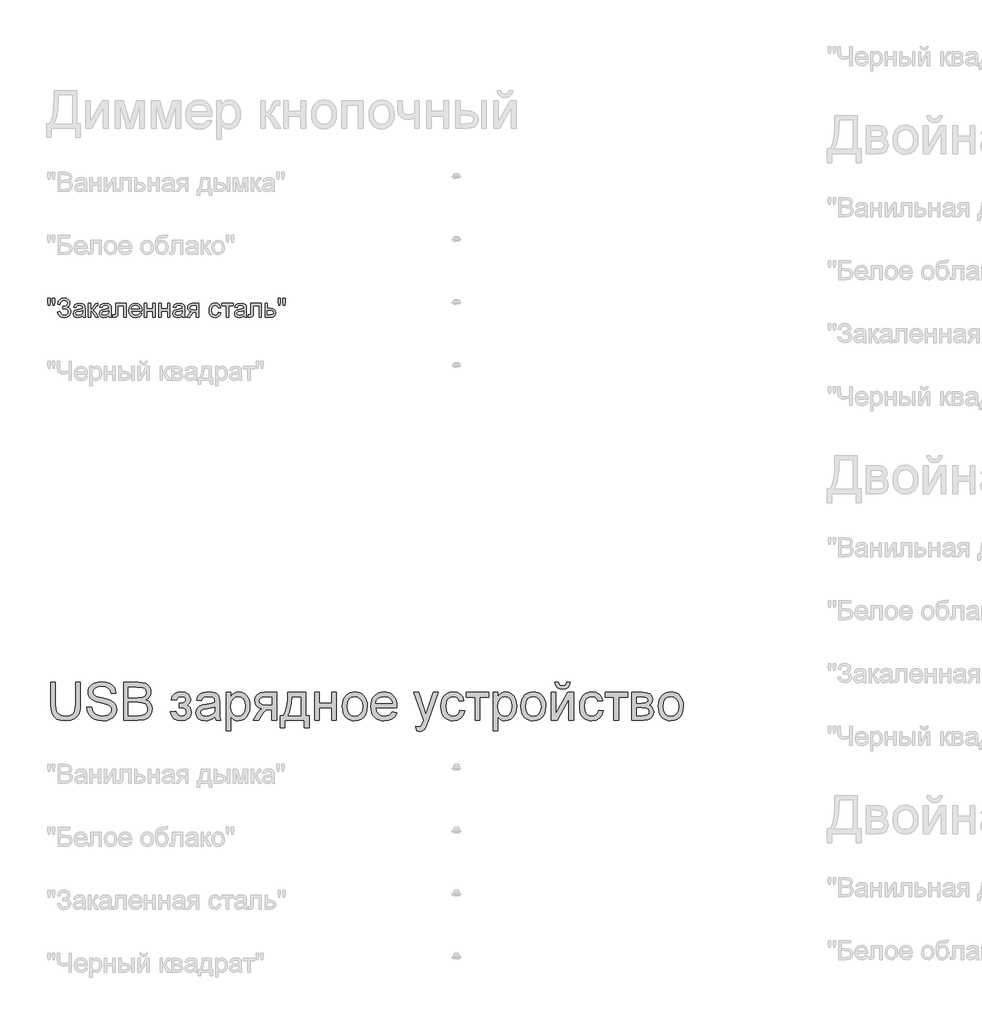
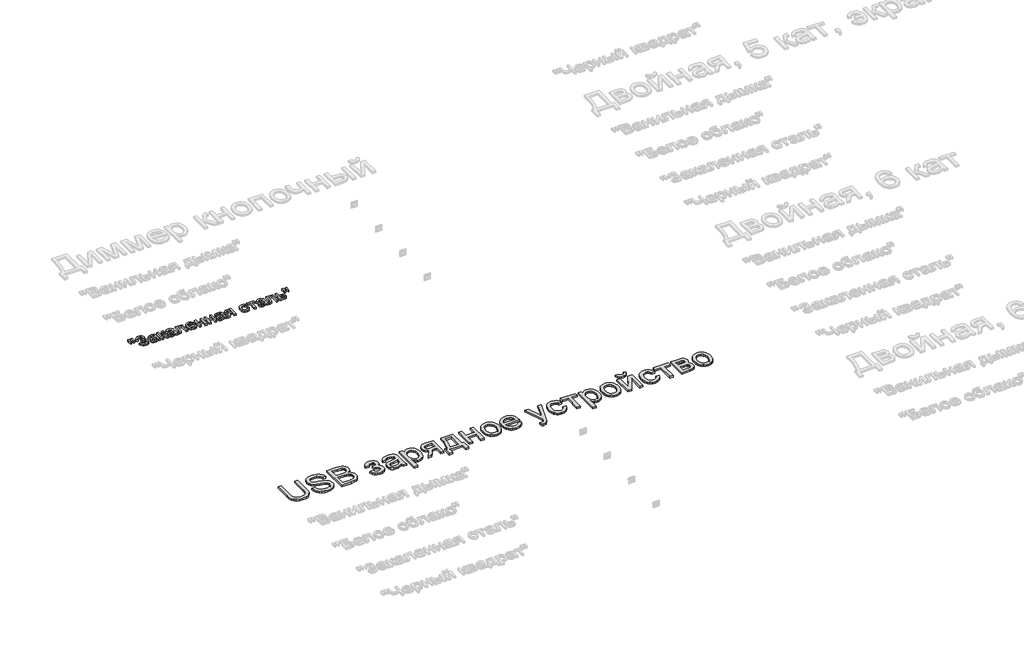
# One storey, part 154 of 168: 2 proxies.
"""IFC4 building model written with IfcOpenShell, lengths in millimetres."""

from ifc_helpers import new_model, si_unit, origin, origin_with_axes, place, context, project, spatial, polyline, outline, extrude, element, save

model = new_model("IFC4")

# Units and contexts
model_context = context("Model", 3, world=origin())
ifc_project = project(units=[si_unit("LENGTHUNIT", "METRE", prefix="MILLI")], contexts=[model_context])

# Site, building, storey
site = spatial("IfcSite", under=ifc_project)
building = spatial("IfcBuilding", under=site)
storey = spatial("IfcBuildingStorey", under=building, Name="Этаж 01", Elevation=0.0)

# Proxies
placement = place(None, origin())
element("IfcBuildingElementProxy", 1, Name="300 мм Arial 2", ObjectType="300 мм Arial 2", at=placement, inside=storey, context=model_context, shape_type="SweptSolid", body=[
    extrude(outline(polyline([(71296.8678623, -15647.0367511), (71334.5389786, -15647.0367511), (71334.5389786, -15820.897782), (71331.9821987, -15861.6131219), (71324.3118591, -15892.9658649), (71309.9828554, -15917.1541061), (71287.4500832, -15936.3759403), (71256.6583602, -15948.9299134), (71217.5525041, -15953.1145711), (71179.3019737, -15949.4725394), (71148.7217828, -15938.5464441), (71125.8027345, -15920.7133644), (71110.5356317, -15896.3503793), (71101.9547842, -15863.673261), (71099.0945017, -15820.897782), (71099.0945017, -15647.0367511), (71136.765618, -15647.0367511), (71136.765618, -15819.5734069), (71138.623422, -15853.4277475), (71144.1968343, -15876.9997863), (71154.295195, -15893.3245498), (71169.7278447, -15905.4370645), (71189.8509899, -15912.9418572), (71214.020837, -15915.4434548), (71252.3357467, -15910.495442), (71266.678546, -15904.3104259), (71277.8115749, -15895.6514035), (71286.1487006, -15883.4745094), (71292.1037904, -15866.7358786), (71296.8678623, -15819.5734069), (71296.8678623, -15647.0367511)])), origin_with_axes(), (0.0, 0.0, 1.0), 20.0),
    extrude(outline(polyline([(71386.3367635, -15844.8101117), (71424.0078798, -15844.8101117), (71428.3304932, -15865.7150061), (71436.1479856, -15882.5180162), (71448.3432738, -15895.8537386), (71465.7992745, -15906.3567695), (71487.1364302, -15913.1717835), (71510.9751835, -15915.4434548), (71531.9628513, -15913.7236065), (71550.3385569, -15908.5640615), (71565.2285807, -15900.3970812), (71575.7592028, -15889.6549269), (71582.0223938, -15877.3216831), (71584.1101241, -15864.3814339), (71582.5466256, -15851.7722785), (71577.8561302, -15840.8737744), (71568.3279865, -15831.575557), (71552.2515433, -15823.7672616), (71497.4003378, -15809.3830756), (71461.3938876, -15799.864129), (71438.3552776, -15790.8050348), (71419.6024929, -15778.1315001), (71406.3127558, -15762.7724268), (71398.3940959, -15745.0589087), (71395.7545426, -15725.3220397), (71399.0194953, -15703.258317), (71408.8143534, -15682.6845165), (71424.8815995, -15665.2469099), (71446.9637163, -15652.5917692), (71473.469614, -15644.8938385), (71502.8082032, -15642.3278616), (71534.5932075, -15645.0134001), (71562.4050864, -15653.0700158), (71585.2505583, -15666.3321618), (71602.1363419, -15684.634291), (71612.8233138, -15706.8359694), (71617.0723509, -15731.7967628), (71579.4012346, -15731.7967628), (71572.4850531, -15709.3191729), (71558.0640788, -15693.0955769), (71535.5313066, -15683.2731276), (71504.2797311, -15679.9989779), (71472.2923917, -15683.2363394), (71450.3482307, -15692.9484241), (71437.6563018, -15707.2406396), (71433.4256589, -15724.2183937), (71436.4238971, -15738.6945502), (71445.4186119, -15750.3380154), (71466.6821912, -15760.7490758), (71506.9284815, -15771.3808655), (71548.4623588, -15781.4792263), (71573.588699, -15790.29), (71595.0638105, -15803.9568162), (71610.0458048, -15820.8242056), (71618.8473815, -15840.7082275), (71621.7812404, -15863.4249407), (71618.4059231, -15886.6474916), (71608.2799712, -15908.4904851), (71591.8172519, -15927.289255), (71569.4316325, -15941.3791355), (71542.5118675, -15950.1807122), (71512.4467114, -15953.1145711), (71475.5389503, -15949.9507859), (71445.1610945, -15940.4594305), (71420.9636563, -15924.6037165), (71402.5971477, -15902.3468558), (71390.8065297, -15875.2339527), (71386.3367635, -15844.8101117)])), origin_with_axes(), (0.0, 0.0, 1.0), 20.0),
    extrude(outline(polyline([(71678.2879149, -15948.4056816), (71678.2879149, -15647.0367511), (71793.2878266, -15647.0367511), (71824.9164811, -15649.2532401), (71849.61056, -15655.9027072), (71868.5380887, -15667.1506992), (71882.8670924, -15683.162763), (71891.8893983, -15701.9983212), (71894.8968336, -15721.7167961), (71892.3676449, -15739.8625756), (71884.7800788, -15756.9231031), (71872.0789529, -15771.849915), (71854.209085, -15783.5945477), (71875.5554377, -15794.7413722), (71891.3283783, -15811.7007322), (71901.0680541, -15833.3505876), (71904.3146127, -15858.5688983), (71902.0981237, -15879.5841573), (71895.4486566, -15899.072706), (71885.5250398, -15915.6457899), (71873.4861015, -15927.9146544), (71858.7432305, -15936.7990046), (71840.7078157, -15943.2185454), (71792.4049098, -15948.4056816), (71678.2879149, -15948.4056816)]), holes=[polyline([(71715.9590312, -15769.4678791), (71784.7529643, -15769.4678791), (71824.9256781, -15766.2305176), (71838.9879674, -15760.6479083), (71849.0955252, -15752.2877899), (71855.1931693, -15741.2789212), (71857.2257173, -15727.7500609), (71855.331125, -15714.6166736), (71849.6473482, -15703.1755436), (71840.4319042, -15694.2452082), (71827.9423105, -15688.6442048), (71779.5290399, -15684.7078674), (71715.9590312, -15684.7078674), (71715.9590312, -15769.4678791)]), polyline([(71715.9590312, -15910.7345653), (71793.2142502, -15910.7345653), (71821.1732818, -15909.2630373), (71844.8280941, -15901.0592688), (71860.4998671, -15884.320638), (71865.1075891, -15872.4932319), (71866.6434964, -15858.9367803), (71864.8408746, -15843.1914309), (71859.4330093, -15829.6533735), (71849.9876391, -15819.0675691), (71836.0725026, -15812.1789788), (71816.3632247, -15808.3989913), (71789.5354302, -15807.1389954), (71715.9590312, -15807.1389954), (71715.9590312, -15910.7345653)])]), origin_with_axes(), (0.0, 0.0, 1.0), 20.0),
    extrude(outline(polyline([(72120.9235315, -15849.5190013), (72120.9235315, -15811.847885), (72150.6483967, -15810.376357), (72165.6579821, -15802.5404705), (72170.9554828, -15795.1920276), (72172.7213164, -15786.1697217), (72170.3576746, -15775.4551586), (72163.2667491, -15767.1502225), (72152.4418214, -15761.8251307), (72138.8761728, -15760.0501), (72125.1633715, -15761.8159336), (72113.6762562, -15767.1134343), (72104.4148269, -15775.9426022), (72097.3790838, -15788.3034373), (72054.9990779, -15783.5945477), (72066.2378729, -15756.8127385), (72083.3259916, -15737.6828747), (72106.263434, -15726.2049565), (72135.0502001, -15722.3789837), (72166.5408989, -15727.041888), (72190.3796522, -15741.0306009), (72205.3892376, -15761.4940369), (72210.3924327, -15785.5811105), (72208.6128035, -15797.9419455), (72203.2739161, -15808.9784054), (72194.3757703, -15818.6904901), (72181.9183663, -15827.0781996), (72196.4589021, -15837.5444423), (72206.8239773, -15850.5490709), (72213.031986, -15866.1288733), (72215.1013222, -15884.320638), (72209.8498067, -15912.0497434), (72194.0952603, -15934.0214956), (72168.9045407, -15948.3413022), (72135.3445057, -15953.1145711), (72102.5202347, -15948.6999872), (72077.4030914, -15935.4562353), (72059.993076, -15913.3833156), (72050.2901884, -15882.481228), (72092.6701942, -15877.7723385), (72099.0161586, -15893.7016289), (72109.6663424, -15905.5842173), (72123.3883408, -15912.9786454), (72138.9497492, -15915.4434548), (72154.1064874, -15913.079813), (72166.4673225, -15905.9888875), (72174.6894851, -15895.2191421), (72177.4302059, -15881.8190404), (72175.7287517, -15871.2056449), (72170.624389, -15862.0269891), (72156.1298384, -15851.4319876), (72128.2811714, -15849.2982721), (72120.9235315, -15849.5190013)])), origin_with_axes(), (0.0, 0.0, 1.0), 20.0),
    extrude(outline(polyline([(72403.4569038, -15920.1523443), (72385.4582771, -15935.584994), (72366.9262216, -15945.6833548), (72347.4376729, -15951.256767), (72326.5695668, -15953.1145711), (72295.088065, -15948.6448049), (72271.8655141, -15935.2355061), (72257.5457074, -15914.8732377), (72252.7724385, -15889.5445623), (72254.5750603, -15873.9279716), (72259.9829256, -15859.7461207), (72268.3246499, -15847.6060149), (72278.9288484, -15838.1146594), (72305.3059874, -15825.7538244), (72337.9003322, -15820.0884417), (72376.4175771, -15814.1287533), (72403.2361746, -15807.1389954), (72403.4569038, -15798.7512859), (72400.8633357, -15781.9390788), (72393.0826315, -15770.9394071), (72375.6818131, -15762.7724268), (72351.4383896, -15760.0501), (72328.9975879, -15761.8619189), (72313.3258149, -15767.2973753), (72302.638843, -15777.3497509), (72295.1524444, -15793.0123268), (72257.4813281, -15788.3034373), (72264.0204305, -15767.7020455), (72273.7785005, -15751.5152378), (72287.6660458, -15739.1360086), (72306.5935744, -15729.9573528), (72329.742549, -15724.273576), (72356.294432, -15722.3789837), (72381.7610631, -15724.0528468), (72401.9485876, -15729.074436), (72417.1697051, -15736.625214), (72427.7371154, -15745.8866432), (72434.7452674, -15757.3369703), (72439.2886101, -15771.4544419), (72441.1280201, -15804.4166687), (72441.1280201, -15851.2848348), (72443.0410064, -15916.7310418), (72450.5457991, -15948.4056816), (72412.8746828, -15948.4056816), (72403.4569038, -15920.1523443)]), holes=[polyline([(72403.4569038, -15844.8101117), (72342.6827982, -15856.3616064), (72310.2723944, -15862.4684475), (72295.5939028, -15872.4012614), (72290.4435548, -15886.895812), (72293.2486551, -15898.0978187), (72301.6639557, -15907.2764745), (72315.5055158, -15913.4017097), (72334.5893943, -15915.4434548), (72354.822904, -15913.1901776), (72372.701969, -15906.4303459), (72387.1965196, -15896.4699409), (72397.2764862, -15884.6149436), (72401.7462525, -15872.4012614), (72403.2361746, -15855.4786896), (72403.4569038, -15844.8101117)])]), origin_with_axes(), (0.0, 0.0, 1.0), 20.0),
    extrude(outline(polyline([(72492.925805, -16033.1656933), (72492.925805, -15727.0878733), (72530.5969213, -15727.0878733), (72530.5969213, -15764.0232256), (72542.8841799, -15745.8038698), (72556.6429665, -15732.7900442), (72572.6826215, -15724.9817488), (72591.8124853, -15722.3789837), (72617.2883135, -15726.0210155), (72639.5635683, -15736.9471107), (72657.7001506, -15754.4950819), (72670.7599615, -15778.0027414), (72678.6510302, -15805.7594379), (72681.2813865, -15836.0545202), (72678.3107394, -15868.271786), (72669.3987981, -15897.0861432), (72654.8306711, -15921.0352611), (72634.8914669, -15938.6568087), (72611.668916, -15949.5001305), (72587.2507485, -15953.1145711), (72569.9327036, -15950.695747), (72554.4724628, -15943.4392746), (72541.237908, -15932.4855882), (72530.5969213, -15918.975122), (72530.5969213, -16033.1656933), (72492.925805, -16033.1656933)]), holes=[polyline([(72530.5969213, -15839.512611), (72534.6712144, -15873.2841782), (72546.8940937, -15896.9022022), (72564.9295085, -15910.8081417), (72586.4414082, -15915.4434548), (72608.3027957, -15910.6425948), (72626.798063, -15896.2400147), (72639.4072184, -15871.7574679), (72643.6102702, -15836.7167078), (72639.508386, -15803.1290817), (72627.2027332, -15779.1799638), (72609.1949096, -15764.832566), (72587.9865125, -15760.0501), (72566.6953421, -15765.1360686), (72547.9977397, -15780.3939744), (72534.9471259, -15805.3455707), (72530.5969213, -15839.512611)])]), origin_with_axes(), (0.0, 0.0, 1.0), 20.0),
    extrude(outline(polyline([(72893.1814157, -15727.0878733), (72893.1814157, -15948.4056816), (72855.5102994, -15948.4056816), (72855.5102994, -15863.6456699), (72834.9824841, -15863.6456699), (72807.0234525, -15868.4281358), (72795.8582339, -15878.8575904), (72780.756678, -15900.5810222), (72750.7375072, -15948.4056816), (72707.180279, -15948.4056816), (72744.9985481, -15887.9258816), (72761.7003907, -15866.2208438), (72777.0778581, -15856.5823356), (72751.3261184, -15848.6912668), (72733.2263242, -15833.7000755), (72722.5209582, -15813.7608713), (72718.9525028, -15791.025764), (72723.8269393, -15765.2372362), (72738.4502486, -15744.8197854), (72762.307396, -15731.5208513), (72794.8833466, -15727.0878733), (72893.1814157, -15727.0878733)]), holes=[polyline([(72855.5102994, -15764.7589896), (72805.8462301, -15764.7589896), (72780.195658, -15766.9386904), (72765.636728, -15773.4777929), (72758.8768963, -15782.9415572), (72756.6236191, -15793.8952436), (72759.9437541, -15808.2518385), (72769.9041592, -15818.2122435), (72788.307456, -15824.033976), (72816.9562663, -15825.9745536), (72855.5102994, -15825.9745536), (72855.5102994, -15764.7589896)])]), origin_with_axes(), (0.0, 0.0, 1.0), 20.0),
    extrude(outline(polyline([(72982.650317, -15727.0878733), (73123.9170031, -15727.0878733), (73123.9170031, -15910.7345653), (73152.1703403, -15910.7345653), (73152.1703403, -16009.6212456), (73114.499224, -16009.6212456), (73114.499224, -15948.4056816), (72959.1058693, -15948.4056816), (72959.1058693, -16009.6212456), (72921.434753, -16009.6212456), (72921.434753, -15910.7345653), (72944.9792007, -15910.7345653), (72962.0949105, -15879.8048865), (72974.0786665, -15838.8872116), (72980.9304686, -15787.9815405), (72982.650317, -15727.0878733)]), holes=[polyline([(73015.6125437, -15764.7589896), (73012.522335, -15810.8821947), (73006.7833758, -15850.5858591), (72998.3956664, -15883.8699826), (72987.3592065, -15910.7345653), (73086.2458868, -15910.7345653), (73086.2458868, -15764.7589896), (73015.6125437, -15764.7589896)])]), origin_with_axes(), (0.0, 0.0, 1.0), 20.0),
    extrude(outline(polyline([(73194.5503462, -15727.0878733), (73232.2214625, -15727.0878733), (73232.2214625, -15811.847885), (73331.1081428, -15811.847885), (73331.1081428, -15727.0878733), (73368.7792591, -15727.0878733), (73368.7792591, -15948.4056816), (73331.1081428, -15948.4056816), (73331.1081428, -15849.5190013), (73232.2214625, -15849.5190013), (73232.2214625, -15948.4056816), (73194.5503462, -15948.4056816), (73194.5503462, -15727.0878733)])), origin_with_axes(), (0.0, 0.0, 1.0), 20.0),
    extrude(outline(polyline([(73415.8681545, -15837.7467774), (73417.905301, -15809.0841715), (73424.0167407, -15784.385494), (73434.2024734, -15763.6507451), (73448.4624993, -15746.8799246), (73462.8190941, -15736.160763), (73478.6656111, -15728.504219), (73496.0020501, -15723.9102925), (73514.8284112, -15722.3789837), (73535.6114447, -15724.2436856), (73554.4033168, -15729.8377912), (73571.2040277, -15739.1613005), (73586.0135773, -15752.2142135), (73598.1008001, -15768.5550719), (73606.7345306, -15787.7424172), (73611.914769, -15809.7762495), (73613.6415151, -15834.6565687), (73610.5880945, -15872.7139611), (73601.4278329, -15901.6846682), (73586.4274445, -15923.3805088), (73565.8536439, -15939.6133019), (73541.4170824, -15949.7392538), (73514.8284112, -15953.1145711), (73493.7418751, -15951.256767), (73474.775259, -15945.6833548), (73457.9285628, -15936.3943344), (73443.2017867, -15923.3897059), (73431.2433226, -15906.8901984), (73422.7015625, -15887.1165412), (73417.5765065, -15864.0687342), (73415.8681545, -15837.7467774)]), holes=[polyline([(73453.5392708, -15837.673201), (73457.8986724, -15871.7666649), (73470.9768774, -15896.0560737), (73490.6585641, -15910.5966095), (73514.8284112, -15915.4434548), (73538.8878937, -15910.5690184), (73558.5327922, -15895.9457091), (73571.6109971, -15871.3344036), (73575.9703988, -15836.4959786), (73571.583406, -15803.3957961), (73558.4224276, -15779.4374812), (73538.7499379, -15764.8969453), (73514.8284112, -15760.0501), (73490.6585641, -15764.8785512), (73470.9768774, -15779.3639048), (73457.8986724, -15803.5981312), (73453.5392708, -15837.673201)])]), origin_with_axes(), (0.0, 0.0, 1.0), 20.0),
    extrude(outline(polyline([(73810.9734173, -15882.481228), (73847.9087696, -15887.1901176), (73834.6006384, -15915.0203905), (73813.3646503, -15935.8241173), (73784.6790517, -15948.7919577), (73749.0220893, -15953.1145711), (73725.647787, -15951.2498692), (73704.8210676, -15945.6557637), (73686.541931, -15936.3322543), (73670.8103771, -15923.2793413), (73658.159835, -15906.860308), (73649.1237335, -15887.4384379), (73643.7020726, -15865.013731), (73641.8948523, -15839.5861874), (73643.7204667, -15813.2964203), (73649.1973099, -15790.1244531), (73658.3253819, -15770.0702859), (73671.1046827, -15753.1339185), (73686.7948498, -15739.6786346), (73704.6555207, -15730.0677174), (73724.6866953, -15724.3011672), (73746.8883737, -15722.3789837), (73768.3749815, -15724.2965686), (73787.8060487, -15730.0493233), (73805.1815751, -15739.6372478), (73820.501561, -15753.0603421), (73833.0072496, -15769.9599213), (73841.9398842, -15789.9773003), (73847.2994651, -15813.1124793), (73849.085992, -15839.3654582), (73848.8652628, -15849.5190013), (73679.5659686, -15849.5190013), (73686.086677, -15877.7171562), (73701.2342181, -15898.4473066), (73723.0956057, -15911.1944178), (73749.7578533, -15915.4434548), (73769.807422, -15913.4752861), (73786.6932056, -15907.5707801), (73800.415204, -15897.3620547), (73810.9734173, -15882.481228)]), holes=[polyline([(73679.5659686, -15811.847885), (73811.4148757, -15811.847885), (73806.3197101, -15791.945469), (73796.3317139, -15777.7084358), (73774.3691588, -15764.464684), (73746.7412209, -15760.0501), (73721.3481662, -15763.5725701), (73700.3513014, -15774.1399805), (73685.7555832, -15790.6118968), (73679.5659686, -15811.847885)])]), origin_with_axes(), (0.0, 0.0, 1.0), 20.0),
    extrude(outline(polyline([(74004.4793468, -16033.1656933), (73999.7704572, -15996.8925285), (74018.900321, -16000.2034665), (74036.7793859, -15996.0463999), (74047.7422694, -15984.4581171), (74058.0429653, -15956.7198147), (74060.9860212, -15947.5963412), (73980.9348991, -15727.0878733), (74020.6661546, -15727.0878733), (74063.1197368, -15849.9604597), (74077.908593, -15899.1094942), (74092.6974492, -15855.6994188), (74136.3282538, -15727.0878733), (74175.7652037, -15727.0878733), (74098.7307139, -15953.7031823), (74078.7179334, -16002.8522169), (74068.4724198, -16018.5423839), (74056.8657429, -16029.4132969), (74043.3828678, -16035.7592613), (74027.5087597, -16037.8745828), (74004.4793468, -16033.1656933)])), origin_with_axes(), (0.0, 0.0, 1.0), 20.0),
    extrude(outline(polyline([(74348.2282831, -15868.3545594), (74385.8993994, -15873.063449), (74375.3963684, -15906.5683017), (74355.6594994, -15931.88778), (74328.5465963, -15947.8078733), (74295.9154633, -15953.1145711), (74274.7875405, -15951.2636648), (74255.843917, -15945.710946), (74239.0845929, -15936.4564145), (74224.5095681, -15923.5000705), (74212.7120523, -15907.0856357), (74204.2852554, -15887.456832), (74199.2291772, -15864.6136594), (74197.5438178, -15838.5561178), (74200.4224944, -15805.032871), (74209.0585243, -15775.9793904), (74223.5898631, -15752.5177162), (74244.1544666, -15735.7698884), (74268.7565751, -15725.7267099), (74295.4004286, -15722.3789837), (74327.2314182, -15726.9775087), (74352.6796552, -15740.7730835), (74370.9357992, -15763.0299442), (74381.1905098, -15793.0123268), (74343.5193935, -15797.7212163), (74336.6859855, -15781.2860882), (74326.0449988, -15769.5046673), (74312.1850446, -15762.4137419), (74295.6947341, -15760.0501), (74271.3501431, -15764.7038073), (74252.0271413, -15778.664929), (74239.4179859, -15802.6876233), (74235.2149341, -15837.5260482), (74239.3260154, -15872.8335227), (74251.6592593, -15896.9389904), (74270.6327732, -15910.8173387), (74294.6646646, -15915.4434548), (74314.1716074, -15912.5555811), (74330.1652771, -15903.8919602), (74341.7995452, -15889.2318626), (74348.2282831, -15868.3545594)])), origin_with_axes(), (0.0, 0.0, 1.0), 20.0),
    extrude(outline(polyline([(74400.026068, -15727.0878733), (74578.9638704, -15727.0878733), (74578.9638704, -15764.7589896), (74508.3305274, -15764.7589896), (74508.3305274, -15948.4056816), (74470.6594111, -15948.4056816), (74470.6594111, -15764.7589896), (74400.026068, -15764.7589896), (74400.026068, -15727.0878733)])), origin_with_axes(), (0.0, 0.0, 1.0), 20.0),
    extrude(outline(polyline([(74611.9260972, -16033.1656933), (74611.9260972, -15727.0878733), (74649.5972135, -15727.0878733), (74649.5972135, -15764.0232256), (74661.8844721, -15745.8038698), (74675.6432588, -15732.7900442), (74691.6829138, -15724.9817488), (74710.8127775, -15722.3789837), (74736.2886057, -15726.0210155), (74758.5638605, -15736.9471107), (74776.7004428, -15754.4950819), (74789.7602537, -15778.0027414), (74797.6513225, -15805.7594379), (74800.2816787, -15836.0545202), (74797.3110316, -15868.271786), (74788.3990903, -15897.0861432), (74773.8309633, -15921.0352611), (74753.8917591, -15938.6568087), (74730.6692082, -15949.5001305), (74706.2510408, -15953.1145711), (74688.9329958, -15950.695747), (74673.472755, -15943.4392746), (74660.2382002, -15932.4855882), (74649.5972135, -15918.975122), (74649.5972135, -16033.1656933), (74611.9260972, -16033.1656933)]), holes=[polyline([(74649.5972135, -15839.512611), (74653.6715066, -15873.2841782), (74665.8943859, -15896.9022022), (74683.9298007, -15910.8081417), (74705.4417004, -15915.4434548), (74727.3030879, -15910.6425948), (74745.7983552, -15896.2400147), (74758.4075106, -15871.7574679), (74762.6105624, -15836.7167078), (74758.5086782, -15803.1290817), (74746.2030254, -15779.1799638), (74728.1952018, -15764.832566), (74706.9868048, -15760.0501), (74685.6956343, -15765.1360686), (74666.9980319, -15780.3939744), (74653.9474181, -15805.3455707), (74649.5972135, -15839.512611)])]), origin_with_axes(), (0.0, 0.0, 1.0), 20.0),
    extrude(outline(polyline([(74833.2439055, -15837.7467774), (74835.281052, -15809.0841715), (74841.3924917, -15784.385494), (74851.5782244, -15763.6507451), (74865.8382503, -15746.8799246), (74880.1948451, -15736.160763), (74896.0413621, -15728.504219), (74913.3778011, -15723.9102925), (74932.2041622, -15722.3789837), (74952.9871957, -15724.2436856), (74971.7790678, -15729.8377912), (74988.5797787, -15739.1613005), (75003.3893283, -15752.2142135), (75015.4765511, -15768.5550719), (75024.1102816, -15787.7424172), (75029.29052, -15809.7762495), (75031.0172661, -15834.6565687), (75027.9638455, -15872.7139611), (75018.8035839, -15901.6846682), (75003.8031955, -15923.3805088), (74983.2293949, -15939.6133019), (74958.7928334, -15949.7392538), (74932.2041622, -15953.1145711), (74911.1176261, -15951.256767), (74892.15101, -15945.6833548), (74875.3043139, -15936.3943344), (74860.5775377, -15923.3897059), (74848.6190736, -15906.8901984), (74840.0773136, -15887.1165412), (74834.9522575, -15864.0687342), (74833.2439055, -15837.7467774)]), holes=[polyline([(74870.9150218, -15837.673201), (74875.2744234, -15871.7666649), (74888.3526284, -15896.0560737), (74908.0343151, -15910.5966095), (74932.2041622, -15915.4434548), (74956.2636447, -15910.5690184), (74975.9085432, -15895.9457091), (74988.9867482, -15871.3344036), (74993.3461498, -15836.4959786), (74988.959157, -15803.3957961), (74975.7981786, -15779.4374812), (74956.1256889, -15764.8969453), (74932.2041622, -15760.0501), (74908.0343151, -15764.8785512), (74888.3526284, -15779.3639048), (74875.2744234, -15803.5981312), (74870.9150218, -15837.673201)])]), origin_with_axes(), (0.0, 0.0, 1.0), 20.0),
    extrude(outline(polyline([(75073.397272, -15727.0878733), (75111.0683883, -15727.0878733), (75111.0683883, -15895.8721327), (75203.6274982, -15727.0878733), (75252.3350744, -15727.0878733), (75252.3350744, -15948.4056816), (75214.6639581, -15948.4056816), (75214.6639581, -15780.6514918), (75122.6934593, -15948.4056816), (75073.397272, -15948.4056816), (75073.397272, -15727.0878733)])), origin_with_axes(), (0.0, 0.0, 1.0), 20.0),
    extrude(outline(polyline([(75195.8283999, -15647.0367511), (75224.0817372, -15647.0367511), (75218.0024872, -15671.160613), (75205.798002, -15688.9385104), (75188.0201046, -15699.8921968), (75165.2206179, -15703.5434256), (75140.4805538, -15699.9197879), (75121.2955077, -15689.048875), (75108.1805146, -15671.2985687), (75101.6506092, -15647.0367511), (75129.9039464, -15647.0367511), (75133.877072, -15659.4435714), (75140.4989479, -15668.2635422), (75149.8063623, -15673.5334518), (75161.8361036, -15675.2900883), (75175.4109492, -15673.5886341), (75185.2333985, -15668.4842714), (75191.8552744, -15659.7194829), (75195.8283999, -15647.0367511)])), origin_with_axes(), (0.0, 0.0, 1.0), 20.0),
    extrude(outline(polyline([(75450.108435, -15868.3545594), (75487.7795513, -15873.063449), (75477.2765204, -15906.5683017), (75457.5396513, -15931.88778), (75430.4267483, -15947.8078733), (75397.7956153, -15953.1145711), (75376.6676925, -15951.2636648), (75357.724069, -15945.710946), (75340.9647448, -15936.4564145), (75326.38972, -15923.5000705), (75314.5922043, -15907.0856357), (75306.1654073, -15887.456832), (75301.1093292, -15864.6136594), (75299.4239698, -15838.5561178), (75302.3026464, -15805.032871), (75310.9386762, -15775.9793904), (75325.470015, -15752.5177162), (75346.0346186, -15735.7698884), (75370.636727, -15725.7267099), (75397.2805805, -15722.3789837), (75429.1115701, -15726.9775087), (75454.5598072, -15740.7730835), (75472.8159512, -15763.0299442), (75483.0706618, -15793.0123268), (75445.3995455, -15797.7212163), (75438.5661374, -15781.2860882), (75427.9251507, -15769.5046673), (75414.0651965, -15762.4137419), (75397.5748861, -15760.0501), (75373.2302951, -15764.7038073), (75353.9072933, -15778.664929), (75341.2981379, -15802.6876233), (75337.0950861, -15837.5260482), (75341.2061674, -15872.8335227), (75353.5394113, -15896.9389904), (75372.5129252, -15910.8173387), (75396.5448165, -15915.4434548), (75416.0517593, -15912.5555811), (75432.045429, -15903.8919602), (75443.6796971, -15889.2318626), (75450.108435, -15868.3545594)])), origin_with_axes(), (0.0, 0.0, 1.0), 20.0),
    extrude(outline(polyline([(75501.9062199, -15727.0878733), (75680.8440224, -15727.0878733), (75680.8440224, -15764.7589896), (75610.2106793, -15764.7589896), (75610.2106793, -15948.4056816), (75572.539563, -15948.4056816), (75572.539563, -15764.7589896), (75501.9062199, -15764.7589896), (75501.9062199, -15727.0878733)])), origin_with_axes(), (0.0, 0.0, 1.0), 20.0),
    extrude(outline(polyline([(75713.8062492, -15727.0878733), (75796.8004273, -15727.0878733), (75823.481069, -15728.3478691), (75842.3074301, -15732.1278566), (75856.1581872, -15739.2647673), (75867.9120169, -15750.5955328), (75875.9410415, -15765.3567978), (75878.617383, -15782.7852073), (75876.9987022, -15796.8291025), (75872.1426599, -15808.9416172), (75864.0308619, -15819.1779337), (75852.6449141, -15827.5932344), (75866.5876418, -15835.4199238), (75877.9551954, -15848.0106851), (75885.5151704, -15864.3722368), (75888.0351621, -15883.5112976), (75881.6524095, -15912.2244873), (75866.4772772, -15932.439603), (75842.4545829, -15944.4141619), (75809.5291443, -15948.4056816), (75713.8062492, -15948.4056816), (75713.8062492, -15727.0878733)]), holes=[polyline([(75751.4773655, -15811.847885), (75788.7070234, -15811.847885), (75819.42517, -15809.9348986), (75834.361179, -15802.2829531), (75839.2999948, -15795.9553828), (75840.9462667, -15788.4505901), (75838.058393, -15777.2117951), (75829.394772, -15769.9829139), (75813.7413931, -15766.0649707), (75789.8842458, -15764.7589896), (75751.4773655, -15764.7589896), (75751.4773655, -15811.847885)]), polyline([(75751.4773655, -15910.7345653), (75797.6833441, -15910.7345653), (75822.8648666, -15909.033111), (75838.6653983, -15903.9287484), (75847.1450783, -15894.648925), (75850.3640458, -15880.4210889), (75848.754562, -15870.9941127), (75843.9261108, -15862.2845065), (75836.5132886, -15855.4694925), (75827.1506919, -15851.7262932), (75794.0045241, -15849.5190013), (75751.4773655, -15849.5190013), (75751.4773655, -15910.7345653)])]), origin_with_axes(), (0.0, 0.0, 1.0), 20.0),
    extrude(outline(polyline([(75925.7062784, -15837.7467774), (75927.7434249, -15809.0841715), (75933.8548646, -15784.385494), (75944.0405973, -15763.6507451), (75958.3006232, -15746.8799246), (75972.657218, -15736.160763), (75988.503735, -15728.504219), (76005.840174, -15723.9102925), (76024.6665351, -15722.3789837), (76045.4495685, -15724.2436856), (76064.2414407, -15729.8377912), (76081.0421516, -15739.1613005), (76095.8517011, -15752.2142135), (76107.938924, -15768.5550719), (76116.5726545, -15787.7424172), (76121.7528929, -15809.7762495), (76123.479639, -15834.6565687), (76120.4262184, -15872.7139611), (76111.2659567, -15901.6846682), (76096.2655684, -15923.3805088), (76075.6917678, -15939.6133019), (76051.2552063, -15949.7392538), (76024.6665351, -15953.1145711), (76003.579999, -15951.256767), (75984.6133829, -15945.6833548), (75967.7666867, -15936.3943344), (75953.0399106, -15923.3897059), (75941.0814465, -15906.8901984), (75932.5396864, -15887.1165412), (75927.4146304, -15864.0687342), (75925.7062784, -15837.7467774)]), holes=[polyline([(75963.3773947, -15837.673201), (75967.7367963, -15871.7666649), (75980.8150013, -15896.0560737), (76000.496688, -15910.5966095), (76024.6665351, -15915.4434548), (76048.7260176, -15910.5690184), (76068.3709161, -15895.9457091), (76081.449121, -15871.3344036), (76085.8085227, -15836.4959786), (76081.4215299, -15803.3957961), (76068.2605515, -15779.4374812), (76048.5880618, -15764.8969453), (76024.6665351, -15760.0501), (76000.496688, -15764.8785512), (75980.8150013, -15779.3639048), (75967.7367963, -15803.5981312), (75963.3773947, -15837.673201)])]), origin_with_axes(), (0.0, 0.0, 1.0), 20.0),
])
element("IfcBuildingElementProxy", 2, Name="150", ObjectType="150", at=placement, inside=storey, context=model_context, shape_type="SweptSolid", body=[
    extrude(outline(polyline([(71080.1485789, -12651.873446), (71075.550054, -12622.7739802), (71075.550054, -12597.7212163), (71094.3856121, -12597.7212163), (71094.3856121, -12622.7739802), (71090.2653338, -12651.873446), (71080.1485789, -12651.873446)])), origin_with_axes(), (0.0, 0.0, 1.0), 20.0),
    extrude(outline(polyline([(71117.7093306, -12651.873446), (71113.2211703, -12622.7739802), (71113.2211703, -12597.7212163), (71132.0567284, -12597.7212163), (71132.0567284, -12622.7739802), (71127.6421445, -12651.873446), (71117.7093306, -12651.873446)])), origin_with_axes(), (0.0, 0.0, 1.0), 20.0),
    extrude(outline(polyline([(71150.8922866, -12706.0256757), (71169.7278447, -12701.3167862), (71181.2977335, -12721.7158428), (71192.2284273, -12729.3723868), (71206.2217387, -12731.9245682), (71220.398991, -12730.0069833), (71231.2193202, -12724.2542286), (71238.0757209, -12715.7883442), (71240.3611878, -12705.7313701), (71237.8641888, -12695.1961495), (71230.3731916, -12687.0613589), (71218.5779752, -12681.8604272), (71203.1683181, -12680.1267833), (71193.2722924, -12680.1267833), (71193.2722924, -12661.2912251), (71214.591054, -12659.7645148), (71227.6324708, -12651.9654165), (71233.2978535, -12637.7099892), (71231.4124583, -12628.8394346), (71225.7562726, -12621.2104817), (71216.8811195, -12615.9543677), (71205.3388219, -12614.2023297), (71186.1169876, -12619.591801), (71175.117316, -12633.8840165), (71172.0822895, -12647.1645565), (71153.2467313, -12642.455667), (71159.0983543, -12621.8542752), (71169.7002536, -12607.1389954), (71185.0524291, -12598.3098275), (71205.1548809, -12595.3667716), (71224.5468605, -12598.4247907), (71239.4598769, -12607.5988479), (71248.965028, -12620.8655924), (71252.1334117, -12636.201673), (71247.2037929, -12654.8440931), (71232.4149367, -12668.7592296), (71242.8903765, -12673.5830823), (71251.5080123, -12681.7270699), (71257.2745625, -12692.4922168), (71259.196746, -12705.1795471), (71255.508729, -12723.0172254), (71244.444678, -12737.6819214), (71227.2921799, -12747.4905751), (71205.3388219, -12750.7601263), (71186.2365493, -12747.9642232), (71170.7947025, -12739.5765137), (71159.0132816, -12725.5969979), (71150.8922866, -12706.0256757)])), origin_with_axes(), (0.0, 0.0, 1.0), 20.0),
    extrude(outline(polyline([(71353.3745367, -12734.279013), (71335.1091957, -12747.0445182), (71314.9308682, -12750.7601263), (71299.1901174, -12748.5252432), (71287.5788419, -12741.8205939), (71280.4189386, -12731.6394596), (71278.0323041, -12718.975122), (71281.6375477, -12704.0759012), (71291.110509, -12693.2601705), (71304.2990786, -12687.079753), (71320.596251, -12684.2470616), (71353.2641721, -12677.7723385), (71353.3745367, -12673.5784838), (71352.0777527, -12665.1723802), (71348.1874006, -12659.6725443), (71339.4869914, -12655.5890542), (71327.3652797, -12654.2278908), (71308.3089923, -12657.8515285), (71299.222307, -12670.7090042), (71280.3867489, -12668.3545594), (71288.5353351, -12649.9604597), (71304.9428721, -12639.1815172), (71329.7933008, -12635.3923327), (71352.6203786, -12638.7400588), (71365.5146426, -12647.1461624), (71371.2903899, -12659.9300617), (71372.2100949, -12676.4111751), (71372.2100949, -12699.8452582), (71373.1665881, -12732.5683617), (71376.9189844, -12748.4056816), (71358.0834263, -12748.4056816), (71353.3745367, -12734.279013)]), holes=[polyline([(71353.3745367, -12696.6078966), (71322.9874839, -12702.383644), (71306.782282, -12705.4370645), (71299.4430362, -12710.4034715), (71296.8678623, -12717.6507468), (71302.4780627, -12727.841078), (71318.940782, -12731.9245682), (71337.9970693, -12727.4180137), (71350.284328, -12716.5103126), (71353.2641721, -12701.9421856), (71353.3745367, -12696.6078966)])]), origin_with_axes(), (0.0, 0.0, 1.0), 20.0),
    extrude(outline(polyline([(71398.1089873, -12637.7467774), (71416.9445455, -12637.7467774), (71416.9445455, -12684.8356728), (71429.5628979, -12681.4511584), (71439.900382, -12661.7326835), (71448.4904266, -12644.7181412), (71456.0687957, -12639.1815172), (71469.8459764, -12637.7467774), (71473.4512199, -12637.7467774), (71473.4512199, -12656.6927002), (71468.3744484, -12656.5823356), (71459.1773985, -12658.5688983), (71452.7026754, -12670.9665216), (71445.1059122, -12684.3758203), (71434.4557285, -12690.9425139), (71446.3383169, -12698.2725627), (71458.0001762, -12713.7144094), (71478.1601095, -12748.4056816), (71456.7493774, -12748.4056816), (71436.9941142, -12714.4501734), (71427.0613004, -12700.0843815), (71416.9445455, -12696.6078966), (71416.9445455, -12748.4056816), (71398.1089873, -12748.4056816), (71398.1089873, -12637.7467774)])), origin_with_axes(), (0.0, 0.0, 1.0), 20.0),
    extrude(outline(polyline([(71560.5656764, -12734.279013), (71542.3003353, -12747.0445182), (71522.1220079, -12750.7601263), (71506.381257, -12748.5252432), (71494.7699816, -12741.8205939), (71487.6100782, -12731.6394596), (71485.2234438, -12718.975122), (71488.8286873, -12704.0759012), (71498.3016487, -12693.2601705), (71511.4902183, -12687.079753), (71527.7873906, -12684.2470616), (71560.4553118, -12677.7723385), (71560.5656764, -12673.5784838), (71559.2688924, -12665.1723802), (71555.3785403, -12659.6725443), (71546.6781311, -12655.5890542), (71534.5564193, -12654.2278908), (71515.500132, -12657.8515285), (71506.4134467, -12670.7090042), (71487.5778886, -12668.3545594), (71495.7264748, -12649.9604597), (71512.1340117, -12639.1815172), (71536.9844405, -12635.3923327), (71559.8115183, -12638.7400588), (71572.7057822, -12647.1461624), (71578.4815296, -12659.9300617), (71579.4012346, -12676.4111751), (71579.4012346, -12699.8452582), (71580.3577277, -12732.5683617), (71584.1101241, -12748.4056816), (71565.2745659, -12748.4056816), (71560.5656764, -12734.279013)]), holes=[polyline([(71560.5656764, -12696.6078966), (71530.1786236, -12702.383644), (71513.9734217, -12705.4370645), (71506.6341759, -12710.4034715), (71504.0590019, -12717.6507468), (71509.6692024, -12727.841078), (71526.1319217, -12731.9245682), (71545.188209, -12727.4180137), (71557.4754676, -12716.5103126), (71560.4553118, -12701.9421856), (71560.5656764, -12696.6078966)])]), origin_with_axes(), (0.0, 0.0, 1.0), 20.0),
    extrude(outline(polyline([(71614.7179061, -12637.7467774), (71699.4779178, -12637.7467774), (71699.4779178, -12748.295317), (71680.6423596, -12748.295317), (71680.6423596, -12656.5823356), (71633.5534643, -12656.5823356), (71633.5534643, -12709.3734019), (71632.2842714, -12733.72719), (71625.3129076, -12744.0094917), (71608.8317942, -12748.4056816), (71593.5279032, -12747.4491884), (71593.5279032, -12729.5701234), (71601.9524009, -12729.5701234), (71610.4688691, -12728.4112951), (71613.8717775, -12724.7324752), (71614.7179061, -12708.3065441), (71614.7179061, -12637.7467774)])), origin_with_axes(), (0.0, 0.0, 1.0), 20.0),
    extrude(outline(polyline([(71805.2072032, -12715.4434548), (71823.6748794, -12717.7978996), (71817.0208138, -12731.713036), (71806.4028197, -12742.1148995), (71792.0600204, -12748.5988196), (71774.2315392, -12750.7601263), (71752.1310283, -12747.0307226), (71735.1256831, -12735.8425114), (71724.2823613, -12717.9220597), (71720.6679207, -12693.9959345), (71724.3191495, -12669.2650674), (71735.2728359, -12650.7698), (71752.0482549, -12639.2366995), (71773.1646814, -12635.3923327), (71793.6235189, -12639.2275025), (71809.971275, -12650.7330118), (71820.6904367, -12669.191491), (71824.2634906, -12693.8855699), (71824.153126, -12698.9623414), (71739.5034789, -12698.9623414), (71742.763833, -12713.0614189), (71750.3376036, -12723.4264941), (71761.2682974, -12729.8000497), (71774.5994212, -12731.9245682), (71793.0670974, -12727.9882308), (71805.2072032, -12715.4434548)]), holes=[polyline([(71739.5034789, -12680.1267833), (71805.4279324, -12680.1267833), (71802.8803496, -12670.1755753), (71797.8863515, -12663.0570587), (71786.9050739, -12656.4351828), (71773.091105, -12654.2278908), (71760.3945777, -12655.9891259), (71749.8961452, -12661.272831), (71742.5982861, -12669.5087892), (71739.5034789, -12680.1267833)])]), origin_with_axes(), (0.0, 0.0, 1.0), 20.0),
    extrude(outline(polyline([(71843.0990487, -12637.7467774), (71861.9346069, -12637.7467774), (71861.9346069, -12680.1267833), (71911.377947, -12680.1267833), (71911.377947, -12637.7467774), (71930.2135052, -12637.7467774), (71930.2135052, -12748.4056816), (71911.377947, -12748.4056816), (71911.377947, -12698.9623414), (71861.9346069, -12698.9623414), (71861.9346069, -12748.4056816), (71843.0990487, -12748.4056816), (71843.0990487, -12637.7467774)])), origin_with_axes(), (0.0, 0.0, 1.0), 20.0),
    extrude(outline(polyline([(71958.4668424, -12637.7467774), (71977.3024005, -12637.7467774), (71977.3024005, -12680.1267833), (72026.7457407, -12680.1267833), (72026.7457407, -12637.7467774), (72045.5812988, -12637.7467774), (72045.5812988, -12748.4056816), (72026.7457407, -12748.4056816), (72026.7457407, -12698.9623414), (71977.3024005, -12698.9623414), (71977.3024005, -12748.4056816), (71958.4668424, -12748.4056816), (71958.4668424, -12637.7467774)])), origin_with_axes(), (0.0, 0.0, 1.0), 20.0),
    extrude(outline(polyline([(72144.4679792, -12734.279013), (72126.2026381, -12747.0445182), (72106.0243107, -12750.7601263), (72090.2835598, -12748.5252432), (72078.6722843, -12741.8205939), (72071.512381, -12731.6394596), (72069.1257465, -12718.975122), (72072.7309901, -12704.0759012), (72082.2039515, -12693.2601705), (72095.392521, -12687.079753), (72111.6896934, -12684.2470616), (72144.3576146, -12677.7723385), (72144.4679792, -12673.5784838), (72143.1711951, -12665.1723802), (72139.280843, -12659.6725443), (72130.5804338, -12655.5890542), (72118.4587221, -12654.2278908), (72099.4024347, -12657.8515285), (72090.3157495, -12670.7090042), (72071.4801913, -12668.3545594), (72079.6287775, -12649.9604597), (72096.0363145, -12639.1815172), (72120.8867433, -12635.3923327), (72143.7138211, -12638.7400588), (72156.608085, -12647.1461624), (72162.3838323, -12659.9300617), (72163.3035373, -12676.4111751), (72163.3035373, -12699.8452582), (72164.2600305, -12732.5683617), (72168.0124268, -12748.4056816), (72149.1768687, -12748.4056816), (72144.4679792, -12734.279013)]), holes=[polyline([(72144.4679792, -12696.6078966), (72114.0809264, -12702.383644), (72097.8757245, -12705.4370645), (72090.5364787, -12710.4034715), (72087.9613047, -12717.6507468), (72093.5715051, -12727.841078), (72110.0342244, -12731.9245682), (72129.0905118, -12727.4180137), (72141.3777704, -12716.5103126), (72144.3576146, -12701.9421856), (72144.4679792, -12696.6078966)])]), origin_with_axes(), (0.0, 0.0, 1.0), 20.0),
    extrude(outline(polyline([(72273.9624415, -12637.7467774), (72273.9624415, -12748.4056816), (72255.1268833, -12748.4056816), (72255.1268833, -12706.0256757), (72244.8629756, -12706.0256757), (72230.8834598, -12708.4169087), (72217.7500726, -12724.4933519), (72202.7404872, -12748.4056816), (72180.9618731, -12748.4056816), (72199.8710076, -12718.1657816), (72208.2219289, -12707.3132627), (72215.9106626, -12702.4940086), (72203.0347928, -12698.5484742), (72193.9848957, -12691.0528785), (72188.6322127, -12681.0832765), (72186.847985, -12669.7157228), (72189.2852032, -12656.8214589), (72196.5968579, -12646.6127335), (72208.5254316, -12639.9632664), (72224.8134069, -12637.7467774), (72273.9624415, -12637.7467774)]), holes=[polyline([(72255.1268833, -12656.5823356), (72230.2948486, -12656.5823356), (72217.4695626, -12657.672186), (72210.1900976, -12660.9417372), (72205.6835431, -12671.1504626), (72207.3436107, -12678.32876), (72212.3238132, -12683.3089625), (72235.8498668, -12687.1901176), (72255.1268833, -12687.1901176), (72255.1268833, -12656.5823356)])]), origin_with_axes(), (0.0, 0.0, 1.0), 20.0),
    extrude(outline(polyline([(72431.710241, -12708.3801205), (72450.5457991, -12710.7345653), (72445.2942837, -12727.4869916), (72435.4258491, -12740.1467308), (72421.8693976, -12748.1067774), (72405.5538311, -12750.7601263), (72385.518058, -12747.0583138), (72369.8508835, -12735.952876), (72359.7387272, -12717.9312568), (72356.3680084, -12693.4808997), (72357.8073467, -12676.7192763), (72362.1253616, -12662.192536), (72369.391031, -12650.4616989), (72379.6733328, -12642.087785), (72391.974387, -12637.0661957), (72405.2963137, -12635.3923327), (72421.2118085, -12637.6915951), (72433.9359271, -12644.5893825), (72443.0639991, -12655.7178129), (72448.1913544, -12670.7090042), (72429.3557962, -12673.063449), (72420.6185988, -12658.9551744), (72405.4434665, -12654.2278908), (72393.271171, -12656.5547444), (72383.6096701, -12663.5353053), (72377.3050924, -12675.5466524), (72375.2035665, -12692.9658649), (72377.2591072, -12710.6196021), (72383.4257291, -12722.672336), (72392.9124861, -12729.6115101), (72404.9284317, -12731.9245682), (72414.6819031, -12730.4806314), (72422.678738, -12726.1488209), (72428.4958721, -12718.8187721), (72431.710241, -12708.3801205)])), origin_with_axes(), (0.0, 0.0, 1.0), 20.0),
    extrude(outline(polyline([(72457.6091334, -12637.7467774), (72547.0780347, -12637.7467774), (72547.0780347, -12656.5823356), (72511.7613631, -12656.5823356), (72511.7613631, -12748.4056816), (72492.925805, -12748.4056816), (72492.925805, -12656.5823356), (72457.6091334, -12656.5823356), (72457.6091334, -12637.7467774)])), origin_with_axes(), (0.0, 0.0, 1.0), 20.0),
    extrude(outline(polyline([(72634.1924911, -12734.279013), (72615.9271501, -12747.0445182), (72595.7488226, -12750.7601263), (72580.0080718, -12748.5252432), (72568.3967963, -12741.8205939), (72561.236893, -12731.6394596), (72558.8502585, -12718.975122), (72562.4555021, -12704.0759012), (72571.9284634, -12693.2601705), (72585.117033, -12687.079753), (72601.4142054, -12684.2470616), (72634.0821265, -12677.7723385), (72634.1924911, -12673.5784838), (72632.8957071, -12665.1723802), (72629.005355, -12659.6725443), (72620.3049458, -12655.5890542), (72608.1832341, -12654.2278908), (72589.1269467, -12657.8515285), (72580.0402614, -12670.7090042), (72561.2047033, -12668.3545594), (72569.3532895, -12649.9604597), (72585.7608265, -12639.1815172), (72610.6112552, -12635.3923327), (72633.438333, -12638.7400588), (72646.332597, -12647.1461624), (72652.1083443, -12659.9300617), (72653.0280493, -12676.4111751), (72653.0280493, -12699.8452582), (72653.9845425, -12732.5683617), (72657.7369388, -12748.4056816), (72638.9013807, -12748.4056816), (72634.1924911, -12734.279013)]), holes=[polyline([(72634.1924911, -12696.6078966), (72603.8054383, -12702.383644), (72587.6002364, -12705.4370645), (72580.2609906, -12710.4034715), (72577.6858167, -12717.6507468), (72583.2960171, -12727.841078), (72599.7587364, -12731.9245682), (72618.8150237, -12727.4180137), (72631.1022824, -12716.5103126), (72634.0821265, -12701.9421856), (72634.1924911, -12696.6078966)])]), origin_with_axes(), (0.0, 0.0, 1.0), 20.0),
    extrude(outline(polyline([(72688.3447208, -12637.7467774), (72773.1047325, -12637.7467774), (72773.1047325, -12748.295317), (72754.2691744, -12748.295317), (72754.2691744, -12656.5823356), (72707.180279, -12656.5823356), (72707.180279, -12709.3734019), (72705.9110861, -12733.72719), (72698.9397223, -12744.0094917), (72682.4586089, -12748.4056816), (72667.1547179, -12747.4491884), (72667.1547179, -12729.5701234), (72675.5792156, -12729.5701234), (72684.0956838, -12728.4112951), (72687.4985922, -12724.7324752), (72688.3447208, -12708.3065441), (72688.3447208, -12637.7467774)])), origin_with_axes(), (0.0, 0.0, 1.0), 20.0),
    extrude(outline(polyline([(72801.3580697, -12637.7467774), (72820.1936279, -12637.7467774), (72820.1936279, -12677.7723385), (72841.8986656, -12677.7723385), (72860.7158297, -12680.1313818), (72874.6401632, -12687.2085117), (72883.2486019, -12698.433511), (72886.1180814, -12713.2361628), (72883.6762647, -12726.7144394), (72876.3508145, -12738.0865916), (72863.6542871, -12745.8259091), (72845.099239, -12748.4056816), (72801.3580697, -12748.4056816), (72801.3580697, -12637.7467774)]), holes=[polyline([(72820.1936279, -12729.5701234), (72837.7783873, -12729.5701234), (72860.4951005, -12725.615392), (72865.5856676, -12720.552416), (72867.2825233, -12713.272951), (72862.260934, -12701.6846682), (72854.1905228, -12697.8770895), (72840.0224674, -12696.6078966), (72820.1936279, -12696.6078966), (72820.1936279, -12729.5701234)])]), origin_with_axes(), (0.0, 0.0, 1.0), 20.0),
    extrude(outline(polyline([(72909.5521645, -12651.873446), (72904.9536396, -12622.7739802), (72904.9536396, -12597.7212163), (72923.7891977, -12597.7212163), (72923.7891977, -12622.7739802), (72919.6689194, -12651.873446), (72909.5521645, -12651.873446)])), origin_with_axes(), (0.0, 0.0, 1.0), 20.0),
    extrude(outline(polyline([(72947.1129162, -12651.873446), (72942.6247559, -12622.7739802), (72942.6247559, -12597.7212163), (72961.460314, -12597.7212163), (72961.460314, -12622.7739802), (72957.0457301, -12651.873446), (72947.1129162, -12651.873446)])), origin_with_axes(), (0.0, 0.0, 1.0), 20.0),
])

save(model, "model.ifc")
